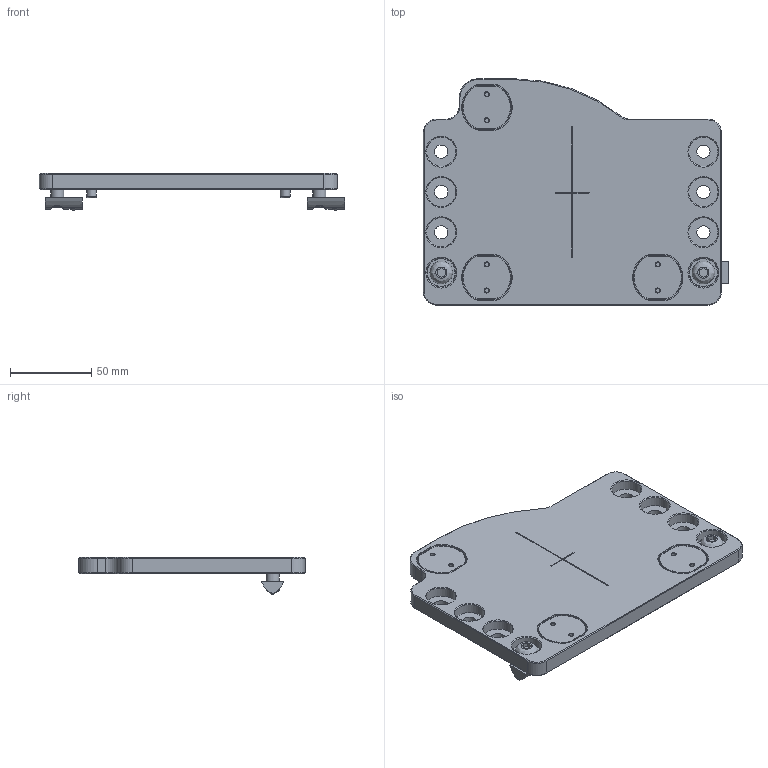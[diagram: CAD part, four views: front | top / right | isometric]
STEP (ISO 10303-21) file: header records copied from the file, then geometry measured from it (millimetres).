
FILE_DESCRIPTION(/* description */ (''),/* implementation_level */ '2;1');
FILE_NAME(/* name */ 'LA-9936-0631 LAUNCH EXTRUSION MOUNT.stp',/* time_stamp */ '2021-03-18T15:52:36+00:00',/* author */ (''),/* organization */ (''),/* preprocessor_version */ 'ST-DEVELOPER v16.7',/* originating_system */ 'SIEMENS PLM Software NX 1942',/* authorisation */ '');
FILE_SCHEMA (('AUTOMOTIVE_DESIGN { 1 0 10303 214 3 1 1 1 }'));
Length unit declared in the file: millimetre
Products named in the file (1): LA-9936-0631-A_LAUNCH EXTRUSION MOUNT
Bounding box: 187.5 x 139 x 22.83 mm (x, y, z)
Volume: 166892.3 mm3; surface area: 65026 mm2
Topology: 1 solids, 1 shells, 645 faces, 1543 edges, 979 vertices
Faces by surface type: plane 291, cylinder 194, cone 148, torus 8, sphere 2, bspline 2
Full cylindrical faces by diameter (mm): 2.6 x14, 4.07 x6, 5.5 x6, 6 x8, 8 x2, 8.2 x6, 9 x8, 9.4 x8, 14 x2, 17 x2, 18 x8
Entity records: 20071 total; most frequent: CARTESIAN_POINT 3365, DIRECTION 3137, ORIENTED_EDGE 2696, EDGE_CURVE 1348, AXIS2_PLACEMENT_3D 1209, VERTEX_POINT 928, EDGE_LOOP 872, LINE 719
